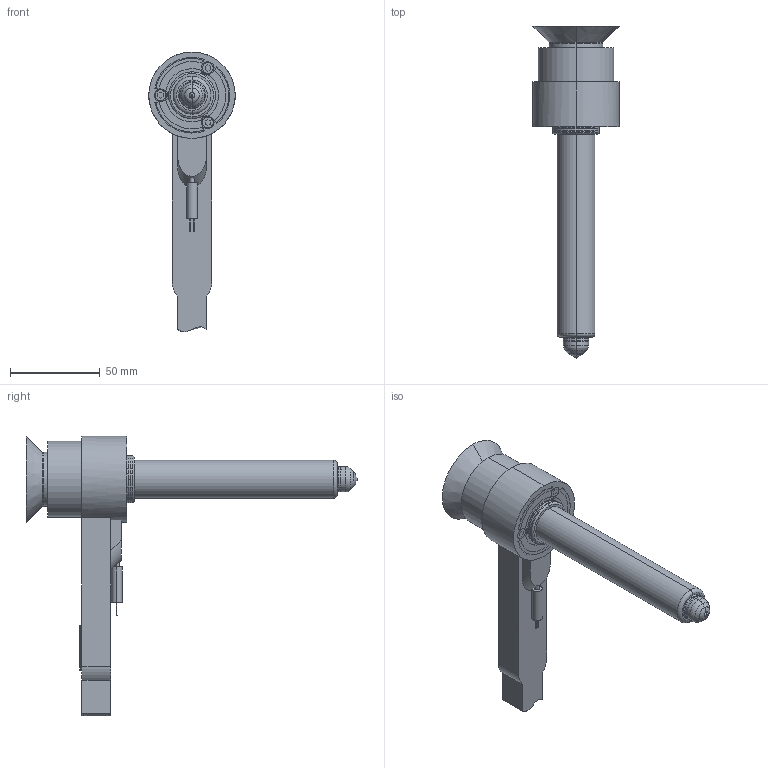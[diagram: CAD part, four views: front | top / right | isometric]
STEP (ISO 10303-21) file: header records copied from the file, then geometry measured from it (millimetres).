
FILE_DESCRIPTION((''),'2;1');
FILE_NAME('PX010007-2Z_ASM','2020-04-03T',('benoit'),(''),'PRO/ENGINEER BY PARAMETRIC TECHNOLOGY CORPORATION, 2007450','PRO/ENGINEER BY PARAMETRIC TECHNOLOGY CORPORATION, 2007450','');
FILE_SCHEMA(('CONFIG_CONTROL_DESIGN'));
Length unit declared in the file: millimetre
Products named in the file (13): PX010027; PX010020; BFX020027; CP010027; PX-CIRCLIPS; RA2Z-P; T2Z-32; BF03219; CAPOT-03219; 32X1_5E; VIS_CHCM4-12; PX010007-2Z-POCHE; PX010007-2Z_ASM
Assembly tree (14 placements, depth 2):
  PX010007-2Z_ASM
    PX010027
    PX010020
    BFX020027
    CP010027
    PX-CIRCLIPS
    RA2Z-P
    T2Z-32
    BF03219
    CAPOT-03219
    32X1_5E
    VIS_CHCM4-12  x3
    PX010007-2Z-POCHE
Bounding box: 48 x 184.41 x 155.51 mm (x, y, z)
Volume: 245667.1 mm3; surface area: 88182.1 mm2
Topology: 14 solids, 14 shells, 524 faces, 1304 edges, 811 vertices
Faces by surface type: cylinder 190, plane 161, cone 83, torus 42, bspline 39, sphere 8, extrusion 1
Entity records: 23772 total; most frequent: CARTESIAN_POINT 12055, DIRECTION 2460, ORIENTED_EDGE 2392, EDGE_CURVE 1196, AXIS2_PLACEMENT_3D 999, VERTEX_POINT 752, EDGE_LOOP 528, CIRCLE 526
